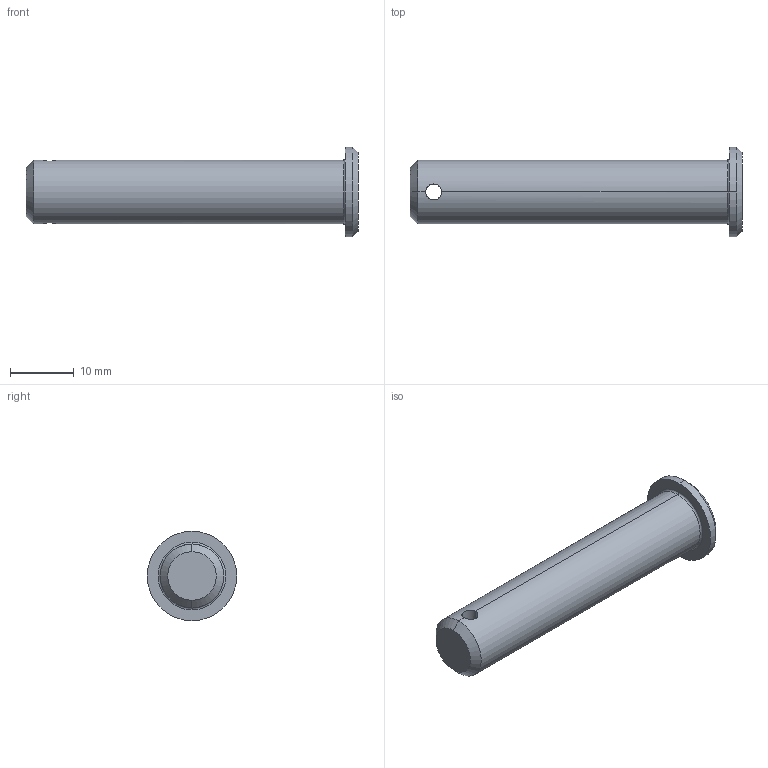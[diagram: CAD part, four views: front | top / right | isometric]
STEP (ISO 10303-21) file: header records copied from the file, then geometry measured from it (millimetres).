
FILE_DESCRIPTION (( 'STEP AP203' ), '1' );
FILE_NAME ('Wiberger-sms2360_10x50.step', '2012-10-09T08:57:08', ( 'Magnus' ), ( 'Wiberger' ), 'SwSTEP 2.0', 'SolidWorks 2011', '' );
FILE_SCHEMA (( 'CONFIG_CONTROL_DESIGN' ));
Length unit declared in the file: millimetre
Products named in the file (1): Wiberger-sms2360_10x50
Bounding box: 52 x 14 x 14 mm (x, y, z)
Volume: 4152.4 mm3; surface area: 1984.6 mm2
Topology: 1 solids, 1 shells, 15 faces, 32 edges, 18 vertices
Faces by surface type: cylinder 6, cone 4, plane 3, torus 2
Entity records: 555 total; most frequent: CARTESIAN_POINT 146, DIRECTION 76, ORIENTED_EDGE 64, AXIS2_PLACEMENT_3D 32, EDGE_CURVE 32, VERTEX_POINT 18, EDGE_LOOP 16, CIRCLE 16
